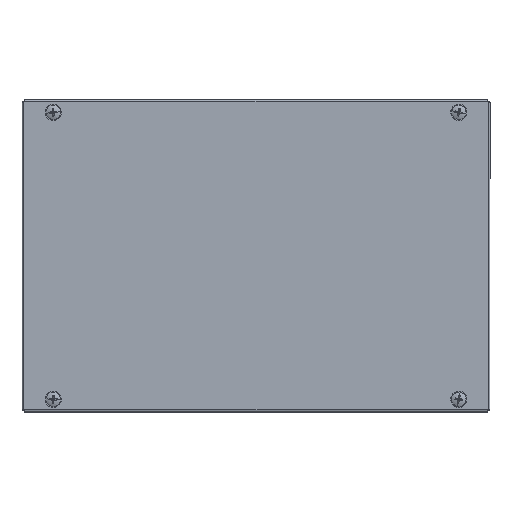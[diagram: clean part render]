
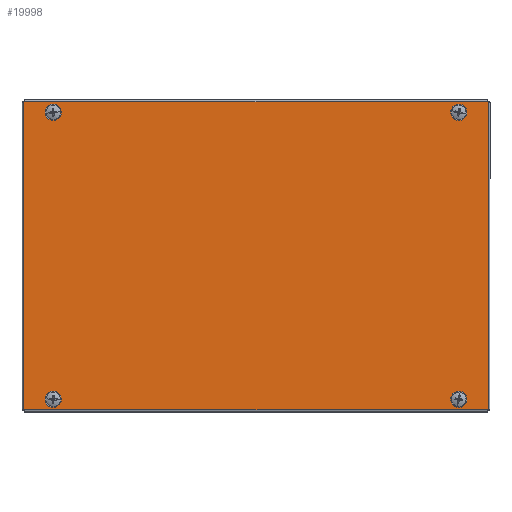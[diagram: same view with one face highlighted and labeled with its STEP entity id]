
A CAD part, top view. The second image highlights one B-rep face of the part: STEP entity #19998.
In plain terms, the highlighted planar face has unit normal (0, 0, 1) as drawn and (0, 0, -1) by its records, which use the part's own axes.
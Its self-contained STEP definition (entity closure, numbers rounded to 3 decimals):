
#260 = AXIS2_PLACEMENT_3D ( 'NONE', #9597, #11143, #9384 ) ;
#290 = AXIS2_PLACEMENT_3D ( 'NONE', #10671, #20026, #18304 ) ;
#721 = DIRECTION ( 'NONE',  ( 0., 0., 1. ) ) ;
#731 = VECTOR ( 'NONE', #7710, 1000. ) ;
#770 = EDGE_CURVE ( 'NONE', #14376, #18716, #15325, .T. ) ;
#813 = CARTESIAN_POINT ( 'NONE',  ( 134., -92., 0. ) ) ;
#982 = ORIENTED_EDGE ( 'NONE', *, *, #19479, .F. ) ;
#989 = DIRECTION ( 'NONE',  ( 1., 0., 0. ) ) ;
#1328 = DIRECTION ( 'NONE',  ( 1., 0., 0. ) ) ;
#1439 = AXIS2_PLACEMENT_3D ( 'NONE', #18207, #721, #13584 ) ;
#1679 = EDGE_LOOP ( 'NONE', ( #6101, #16299 ) ) ;
#1744 = CARTESIAN_POINT ( 'NONE',  ( 126., 92., 0. ) ) ;
#2461 = CARTESIAN_POINT ( 'NONE',  ( 148.8, -98.8, 0. ) ) ;
#2653 = DIRECTION ( 'NONE',  ( 1., 0., 0. ) ) ;
#2936 = DIRECTION ( 'NONE',  ( 0., 0., 1. ) ) ;
#2955 = VECTOR ( 'NONE', #13038, 1000. ) ;
#3358 = EDGE_CURVE ( 'NONE', #14836, #14220, #5919, .T. ) ;
#3887 = VERTEX_POINT ( 'NONE', #1744 ) ;
#3897 = ORIENTED_EDGE ( 'NONE', *, *, #770, .T. ) ;
#3907 = CIRCLE ( 'NONE', #8759, 4. ) ;
#4037 = CIRCLE ( 'NONE', #6773, 4. ) ;
#4418 = CARTESIAN_POINT ( 'NONE',  ( -130., 92., 0. ) ) ;
#5505 = EDGE_CURVE ( 'NONE', #14362, #17260, #16522, .T. ) ;
#5915 = EDGE_LOOP ( 'NONE', ( #9821, #17866 ) ) ;
#5919 = CIRCLE ( 'NONE', #17990, 4. ) ;
#6029 = CARTESIAN_POINT ( 'NONE',  ( 148.8, -98.8, 0. ) ) ;
#6101 = ORIENTED_EDGE ( 'NONE', *, *, #18410, .T. ) ;
#6773 = AXIS2_PLACEMENT_3D ( 'NONE', #13068, #16238, #16353 ) ;
#7121 = VECTOR ( 'NONE', #13449, 1000. ) ;
#7212 = LINE ( 'NONE', #9837, #2955 ) ;
#7484 = DIRECTION ( 'NONE',  ( 0., 0., 1. ) ) ;
#7710 = DIRECTION ( 'NONE',  ( 0., 1., 0. ) ) ;
#7987 = CARTESIAN_POINT ( 'NONE',  ( 130., -92., 0. ) ) ;
#8427 = CARTESIAN_POINT ( 'NONE',  ( 148.8, 98.8, 0. ) ) ;
#8734 = VERTEX_POINT ( 'NONE', #18803 ) ;
#8759 = AXIS2_PLACEMENT_3D ( 'NONE', #16727, #7484, #2653 ) ;
#8965 = EDGE_CURVE ( 'NONE', #18716, #14376, #4037, .T. ) ;
#9384 = DIRECTION ( 'NONE',  ( 1., 0., 0. ) ) ;
#9550 = EDGE_CURVE ( 'NONE', #15022, #15631, #14475, .T. ) ;
#9597 = CARTESIAN_POINT ( 'NONE',  ( 130., 92., 0. ) ) ;
#9821 = ORIENTED_EDGE ( 'NONE', *, *, #16758, .T. ) ;
#9837 = CARTESIAN_POINT ( 'NONE',  ( -148.8, 98.8, 0. ) ) ;
#10103 = LINE ( 'NONE', #12055, #7121 ) ;
#10381 = CARTESIAN_POINT ( 'NONE',  ( -134., 92., 0. ) ) ;
#10671 = CARTESIAN_POINT ( 'NONE',  ( 130., -92., 0. ) ) ;
#10801 = ORIENTED_EDGE ( 'NONE', *, *, #5505, .T. ) ;
#11048 = EDGE_CURVE ( 'NONE', #15631, #19201, #7212, .T. ) ;
#11143 = DIRECTION ( 'NONE',  ( 0., 0., 1. ) ) ;
#11341 = CARTESIAN_POINT ( 'NONE',  ( -134., -92., 0. ) ) ;
#11553 = EDGE_CURVE ( 'NONE', #17260, #14362, #12168, .T. ) ;
#11558 = LINE ( 'NONE', #2461, #18989 ) ;
#11584 = FACE_BOUND ( 'NONE', #19352, .T. ) ;
#12055 = CARTESIAN_POINT ( 'NONE',  ( -148.8, -98.8, 0. ) ) ;
#12168 = CIRCLE ( 'NONE', #14916, 4. ) ;
#12256 = EDGE_CURVE ( 'NONE', #8734, #15022, #11558, .T. ) ;
#12377 = PLANE ( 'NONE',  #19551 ) ;
#12511 = CARTESIAN_POINT ( 'NONE',  ( -150., -100., 0. ) ) ;
#12823 = ORIENTED_EDGE ( 'NONE', *, *, #9550, .F. ) ;
#12882 = AXIS2_PLACEMENT_3D ( 'NONE', #4418, #2936, #1328 ) ;
#12943 = DIRECTION ( 'NONE',  ( 0., 0., 1. ) ) ;
#13038 = DIRECTION ( 'NONE',  ( -1., 0., 0. ) ) ;
#13068 = CARTESIAN_POINT ( 'NONE',  ( -130., -92., 0. ) ) ;
#13244 = CIRCLE ( 'NONE', #260, 4. ) ;
#13349 = VERTEX_POINT ( 'NONE', #15653 ) ;
#13449 = DIRECTION ( 'NONE',  ( 0., -1., 0. ) ) ;
#13582 = FACE_BOUND ( 'NONE', #1679, .T. ) ;
#13584 = DIRECTION ( 'NONE',  ( 1., 0., 0. ) ) ;
#14079 = CARTESIAN_POINT ( 'NONE',  ( -148.8, 98.8, 0. ) ) ;
#14220 = VERTEX_POINT ( 'NONE', #813 ) ;
#14245 = CARTESIAN_POINT ( 'NONE',  ( -126., -92., 0. ) ) ;
#14362 = VERTEX_POINT ( 'NONE', #19463 ) ;
#14376 = VERTEX_POINT ( 'NONE', #11341 ) ;
#14475 = LINE ( 'NONE', #20323, #731 ) ;
#14507 = EDGE_LOOP ( 'NONE', ( #20337, #3897 ) ) ;
#14587 = CARTESIAN_POINT ( 'NONE',  ( -130., 92., 0. ) ) ;
#14716 = DIRECTION ( 'NONE',  ( 1., 0., 0. ) ) ;
#14805 = EDGE_LOOP ( 'NONE', ( #12823, #16564, #982, #18188 ) ) ;
#14836 = VERTEX_POINT ( 'NONE', #19983 ) ;
#14916 = AXIS2_PLACEMENT_3D ( 'NONE', #14587, #12943, #14716 ) ;
#15022 = VERTEX_POINT ( 'NONE', #6029 ) ;
#15028 = EDGE_CURVE ( 'NONE', #3887, #13349, #13244, .T. ) ;
#15155 = CIRCLE ( 'NONE', #290, 4. ) ;
#15288 = FACE_BOUND ( 'NONE', #14507, .T. ) ;
#15325 = CIRCLE ( 'NONE', #1439, 4. ) ;
#15631 = VERTEX_POINT ( 'NONE', #8427 ) ;
#15653 = CARTESIAN_POINT ( 'NONE',  ( 134., 92., 0. ) ) ;
#16238 = DIRECTION ( 'NONE',  ( 0., 0., 1. ) ) ;
#16299 = ORIENTED_EDGE ( 'NONE', *, *, #15028, .T. ) ;
#16314 = DIRECTION ( 'NONE',  ( 1., 0., 0. ) ) ;
#16353 = DIRECTION ( 'NONE',  ( 1., 0., 0. ) ) ;
#16522 = CIRCLE ( 'NONE', #12882, 4. ) ;
#16564 = ORIENTED_EDGE ( 'NONE', *, *, #12256, .F. ) ;
#16727 = CARTESIAN_POINT ( 'NONE',  ( 130., 92., 0. ) ) ;
#16758 = EDGE_CURVE ( 'NONE', #14220, #14836, #15155, .T. ) ;
#16934 = DIRECTION ( 'NONE',  ( 1., 0., 0. ) ) ;
#17260 = VERTEX_POINT ( 'NONE', #10381 ) ;
#17290 = FACE_OUTER_BOUND ( 'NONE', #14805, .T. ) ;
#17396 = ORIENTED_EDGE ( 'NONE', *, *, #11553, .T. ) ;
#17866 = ORIENTED_EDGE ( 'NONE', *, *, #3358, .T. ) ;
#17990 = AXIS2_PLACEMENT_3D ( 'NONE', #7987, #20451, #16314 ) ;
#18188 = ORIENTED_EDGE ( 'NONE', *, *, #11048, .F. ) ;
#18207 = CARTESIAN_POINT ( 'NONE',  ( -130., -92., 0. ) ) ;
#18304 = DIRECTION ( 'NONE',  ( 1., 0., 0. ) ) ;
#18410 = EDGE_CURVE ( 'NONE', #13349, #3887, #3907, .T. ) ;
#18716 = VERTEX_POINT ( 'NONE', #14245 ) ;
#18734 = DIRECTION ( 'NONE',  ( 0., 0., 1. ) ) ;
#18803 = CARTESIAN_POINT ( 'NONE',  ( -148.8, -98.8, 0. ) ) ;
#18989 = VECTOR ( 'NONE', #989, 1000. ) ;
#19201 = VERTEX_POINT ( 'NONE', #14079 ) ;
#19352 = EDGE_LOOP ( 'NONE', ( #10801, #17396 ) ) ;
#19463 = CARTESIAN_POINT ( 'NONE',  ( -126., 92., 0. ) ) ;
#19479 = EDGE_CURVE ( 'NONE', #19201, #8734, #10103, .T. ) ;
#19551 = AXIS2_PLACEMENT_3D ( 'NONE', #12511, #18734, #16934 ) ;
#19983 = CARTESIAN_POINT ( 'NONE',  ( 126., -92., 0. ) ) ;
#19993 = FACE_BOUND ( 'NONE', #5915, .T. ) ;
#19998 = ADVANCED_FACE ( 'NONE', ( #15288, #19993, #13582, #11584, #17290 ), #12377, .F. ) ;
#20026 = DIRECTION ( 'NONE',  ( 0., 0., 1. ) ) ;
#20323 = CARTESIAN_POINT ( 'NONE',  ( 148.8, 98.8, 0. ) ) ;
#20337 = ORIENTED_EDGE ( 'NONE', *, *, #8965, .T. ) ;
#20451 = DIRECTION ( 'NONE',  ( 0., 0., 1. ) ) ;
